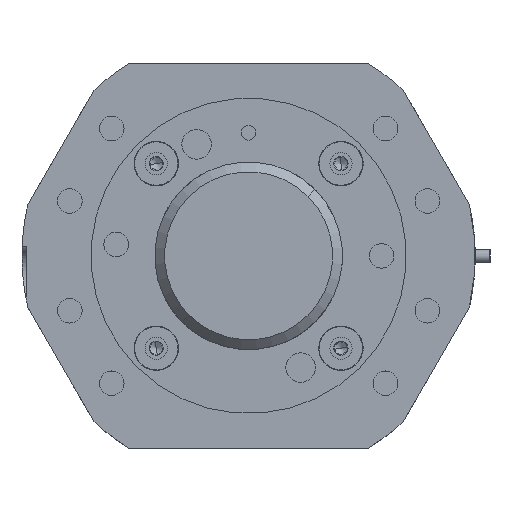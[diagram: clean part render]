
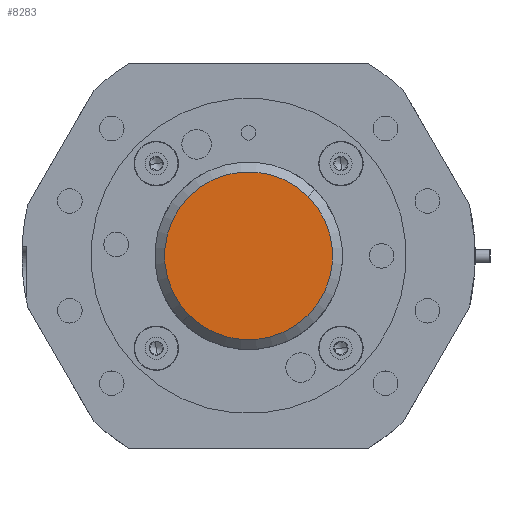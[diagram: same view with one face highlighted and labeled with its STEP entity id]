
A CAD part, top view. The second image highlights one B-rep face of the part: STEP entity #8283.
In plain terms, the highlighted planar face has unit normal (0, 0, 1) as drawn and (0, -1, 0) by its records, which use the part's own axes.
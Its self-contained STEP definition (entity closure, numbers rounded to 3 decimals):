
#911 = DIRECTION ( 'NONE',  ( 0., 0., -1. ) ) ;
#1027 = AXIS2_PLACEMENT_3D ( 'NONE', #2216, #15188, #3630 ) ;
#1162 = VERTEX_POINT ( 'NONE', #14812 ) ;
#1263 = VERTEX_POINT ( 'NONE', #4937 ) ;
#2216 = CARTESIAN_POINT ( 'NONE',  ( 0., 0., 0. ) ) ;
#3630 = DIRECTION ( 'NONE',  ( 0., 0., -1. ) ) ;
#4377 = ORIENTED_EDGE ( 'NONE', *, *, #10119, .T. ) ;
#4721 = ORIENTED_EDGE ( 'NONE', *, *, #16648, .T. ) ;
#4937 = CARTESIAN_POINT ( 'NONE',  ( 0., 0., -17.05 ) ) ;
#5960 = CARTESIAN_POINT ( 'NONE',  ( 0., 0., 0. ) ) ;
#6589 = AXIS2_PLACEMENT_3D ( 'NONE', #7127, #13320, #9573 ) ;
#7127 = CARTESIAN_POINT ( 'NONE',  ( 0., 0., -19.05 ) ) ;
#7134 = DIRECTION ( 'NONE',  ( 0., -1., 0. ) ) ;
#8183 = PLANE ( 'NONE',  #6589 ) ;
#8283 = ADVANCED_FACE ( 'NONE', ( #8727 ), #8183, .T. ) ;
#8696 = CIRCLE ( 'NONE', #1027, 17.05 ) ;
#8727 = FACE_OUTER_BOUND ( 'NONE', #14555, .T. ) ;
#9573 = DIRECTION ( 'NONE',  ( 0., 0., -1. ) ) ;
#10119 = EDGE_CURVE ( 'NONE', #1263, #1162, #8696, .T. ) ;
#11079 = AXIS2_PLACEMENT_3D ( 'NONE', #5960, #7134, #911 ) ;
#13320 = DIRECTION ( 'NONE',  ( 0., -1., 0. ) ) ;
#14555 = EDGE_LOOP ( 'NONE', ( #4721, #4377 ) ) ;
#14812 = CARTESIAN_POINT ( 'NONE',  ( 0., 0., 17.05 ) ) ;
#15188 = DIRECTION ( 'NONE',  ( 0., -1., 0. ) ) ;
#16485 = CIRCLE ( 'NONE', #11079, 17.05 ) ;
#16648 = EDGE_CURVE ( 'NONE', #1162, #1263, #16485, .T. ) ;
